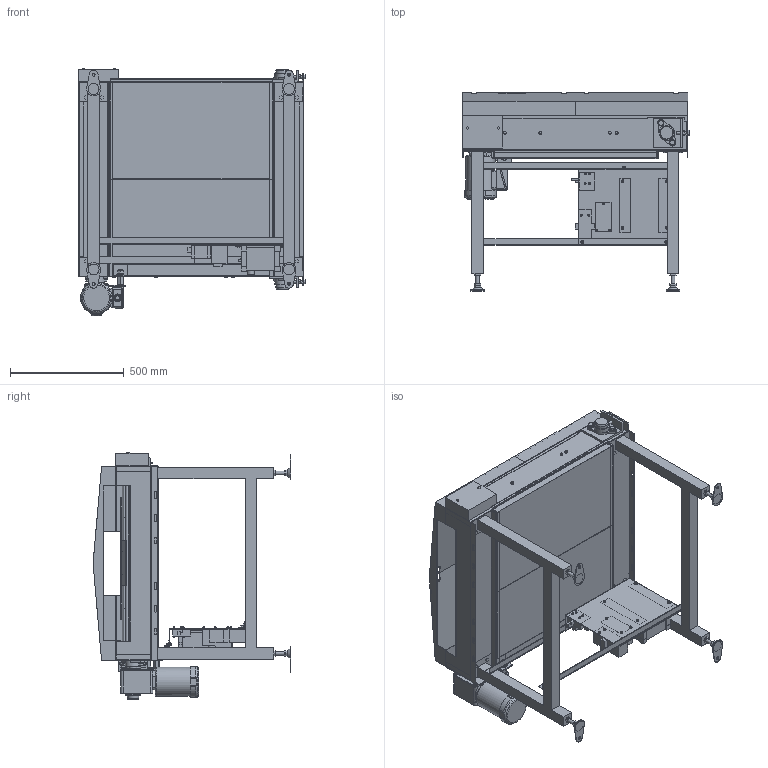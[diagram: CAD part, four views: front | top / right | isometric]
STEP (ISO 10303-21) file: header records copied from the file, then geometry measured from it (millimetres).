
FILE_DESCRIPTION( (''), '2;1');
FILE_NAME ('WEB-SLS-H-340-3-200-200-R-IVH-7.5.stp','2026-08-20T08:51:26',(''),(''),'spGate 21.9.5 (****-****-****-****)','','');
FILE_SCHEMA (('AUTOMOTIVE_DESIGN'));
Length unit declared in the file: millimetre
Products named in the file (81): WEB-SLS-H-340-3-200-200-R-IVH-7.5; TEMP_X_T-prt0; TEMP_X_T-prt1; TEMP_X_T-prt2; TEMP_X_T-prt3; TEMP_X_T-prt4; TEMP_X_T-prt5; TEMP_X_T-prt6; TEMP_X_T-prt7; TEMP_X_T-prt8; TEMP_X_T-prt9; TEMP_X_T-prt10; TEMP_X_T-prt11; TEMP_X_T-prt12; TEMP_X_T-prt13; TEMP_X_T-prt14; TEMP_X_T-prt15; TEMP_X_T-prt16; TEMP_X_T-prt17; TEMP_X_T-prt18; TEMP_X_T-prt19; TEMP_X_T-prt20; TEMP_X_T-prt21; TEMP_X_T-prt22; TEMP_X_T-prt23; TEMP_X_T-prt24; TEMP_X_T-prt25; TEMP_X_T-prt26; TEMP_X_T-prt27; TEMP_X_T-prt28; TEMP_X_T-prt29; TEMP_X_T-prt30; TEMP_X_T-prt31; TEMP_X_T-prt32; TEMP_X_T-prt33; TEMP_X_T-prt34; TEMP_X_T-prt35; TEMP_X_T-prt36; TEMP_X_T-prt37; TEMP_X_T-prt38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
Assembly tree (80 placements, depth 2):
  WEB-SLS-H-340-3-200-200-R-IVH-7.5
    TEMP_X_T-prt0
    TEMP_X_T-prt1
    TEMP_X_T-prt2
    TEMP_X_T-prt3
    TEMP_X_T-prt4
    TEMP_X_T-prt5
    TEMP_X_T-prt6
    TEMP_X_T-prt7
    TEMP_X_T-prt8
    TEMP_X_T-prt9
    TEMP_X_T-prt10
    TEMP_X_T-prt11
    TEMP_X_T-prt12
    TEMP_X_T-prt13
    TEMP_X_T-prt14
    TEMP_X_T-prt15
    TEMP_X_T-prt16
    TEMP_X_T-prt17
    TEMP_X_T-prt18
    TEMP_X_T-prt19
    TEMP_X_T-prt20
    TEMP_X_T-prt21
    TEMP_X_T-prt22
    TEMP_X_T-prt23
    TEMP_X_T-prt24
    TEMP_X_T-prt25
    TEMP_X_T-prt26
    TEMP_X_T-prt27
    TEMP_X_T-prt28
    TEMP_X_T-prt29
    TEMP_X_T-prt30
    TEMP_X_T-prt31
    TEMP_X_T-prt32
    TEMP_X_T-prt33
    TEMP_X_T-prt34
    TEMP_X_T-prt35
    TEMP_X_T-prt36
    TEMP_X_T-prt37
    TEMP_X_T-prt38
    TEMP_X_T-prt39
    TEMP_X_T-prt40
    TEMP_X_T-prt41
    TEMP_X_T-prt42
    TEMP_X_T-prt43
    TEMP_X_T-prt44
    TEMP_X_T-prt45
    TEMP_X_T-prt46
    TEMP_X_T-prt47
    TEMP_X_T-prt48
    TEMP_X_T-prt49
    TEMP_X_T-prt50
    TEMP_X_T-prt51
    TEMP_X_T-prt52
    TEMP_X_T-prt53
    TEMP_X_T-prt54
    TEMP_X_T-prt55
    TEMP_X_T-prt56
    TEMP_X_T-prt57
    TEMP_X_T-prt58
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Bounding box: 996 x 870.6 x 1089.5 mm (x, y, z)
Volume: 55642154.4 mm3; surface area: 11400497.8 mm2
Topology: 80 solids, 80 shells, 2720 faces, 7237 edges, 4660 vertices
Faces by surface type: plane 2097, cylinder 504, bspline 115, sphere 4
Full cylindrical faces by diameter (mm): 4 x14, 4.15 x1, 5 x4, 6 x14, 8 x6, 8.376 x4, 8.5 x8, 9 x4, 9.2 x5, 10.5 x4, 11 x4, 11.8 x4, 12 x2, 12.2 x20, 12.5 x23, 13 x8, 14 x8, 15.4 x1, 16 x16, 18 x1, 20 x1, 21 x6, 22.2 x1, 23 x1, 24 x1, 25 x1, 28 x1, 30 x1, 30.5 x1, 34 x1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
Entity records: 146523 total; most frequent: CARTESIAN_POINT 18570, ORIENTED_EDGE 14466, DIRECTION 13801, COLOUR_RGB 10033, PRESENTATION_STYLE_ASSIGNMENT 10033, STYLED_ITEM 10033, EDGE_CURVE 7233, DRAUGHTING_PRE_DEFINED_CURVE_FONT 7233
